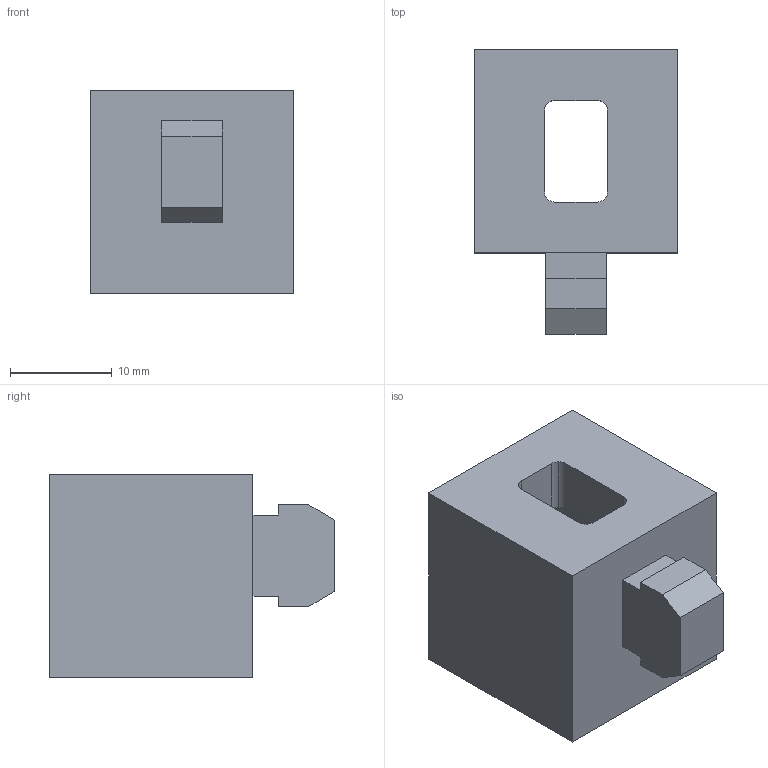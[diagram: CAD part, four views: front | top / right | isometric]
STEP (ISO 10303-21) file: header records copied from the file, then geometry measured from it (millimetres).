
FILE_DESCRIPTION (( 'STEP AP203' ), '1' );
FILE_NAME ('WSF306.STEP', '2024-02-19T01:18:25', ( '' ), ( '' ), 'SwSTEP 2.0', 'SolidWorks 2022', '' );
FILE_SCHEMA (( 'CONFIG_CONTROL_DESIGN' ));
Length unit declared in the file: millimetre
Products named in the file (1): WSF306
Bounding box: 20 x 28 x 20 mm (x, y, z)
Volume: 6660.4 mm3; surface area: 3375.2 mm2
Topology: 1 solids, 1 shells, 46 faces, 126 edges, 84 vertices
Faces by surface type: plane 30, cylinder 16
Entity records: 1547 total; most frequent: CARTESIAN_POINT 257, ORIENTED_EDGE 252, DIRECTION 252, EDGE_CURVE 126, VECTOR 94, LINE 94, VERTEX_POINT 84, AXIS2_PLACEMENT_3D 79
